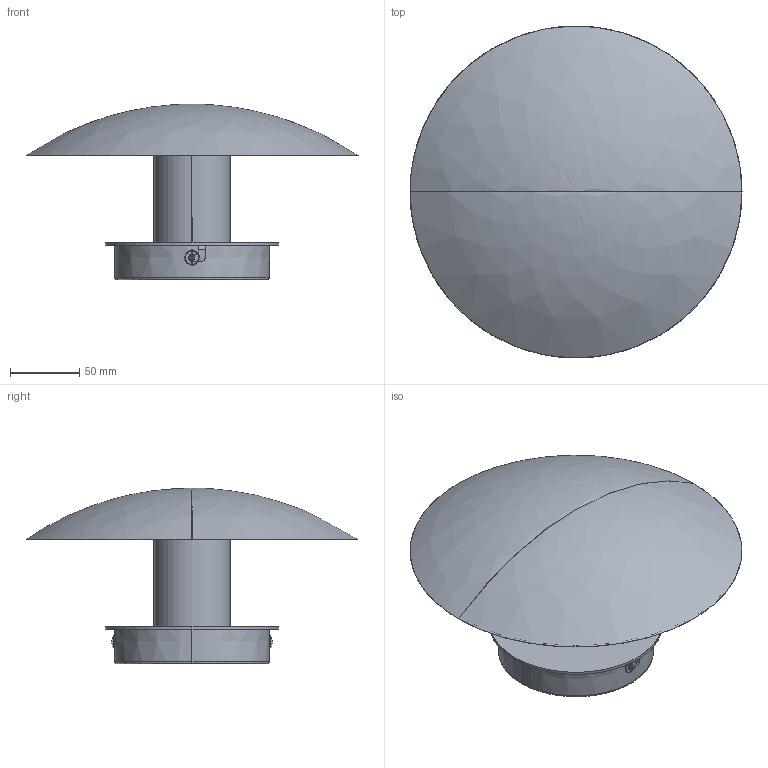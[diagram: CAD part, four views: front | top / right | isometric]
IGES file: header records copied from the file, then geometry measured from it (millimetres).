
Start section: SolidWorks IGES file using analytic representation for surfaces
Global section: file name: C:\SANTACOLE_PDM\Proyectos Catálogo\PROD-P13-032 -- DISCO\6_Técnico comercial\3D\Disco M.IGS; native system: SolidWorks 2019; preprocessor: SolidWorks 2019; author: ana.pascual; date: 200402.163830; units: millimetre
Bounding box: 240 x 240 x 127 mm (x, y, z)
Surface area: 187835.2 mm2 (no closed solid volume)
Topology: 0 solids, 0 shells, 173 faces, 3322 edges, 3320 vertices
Faces by surface type: revolution 92, bspline 81
